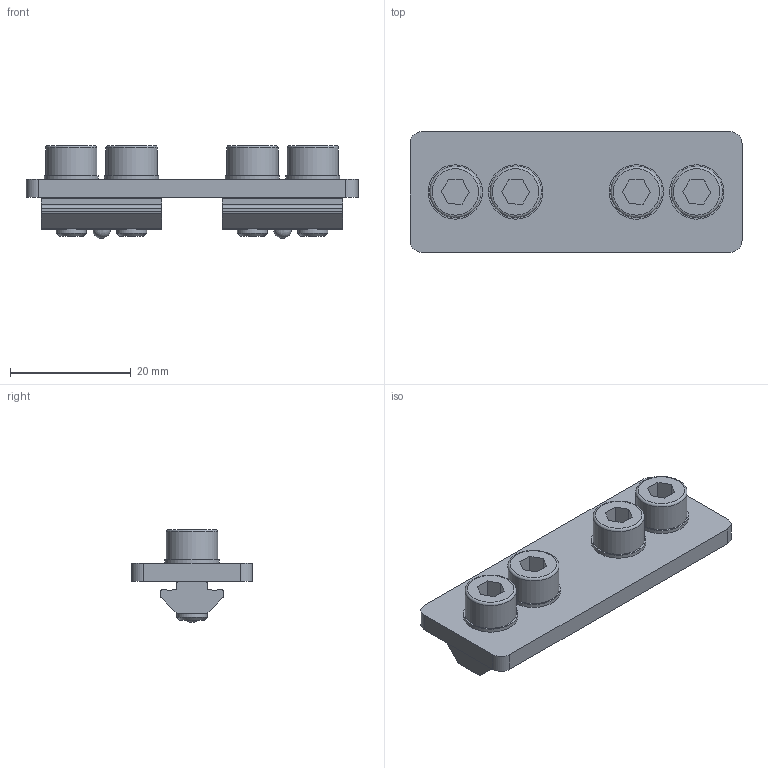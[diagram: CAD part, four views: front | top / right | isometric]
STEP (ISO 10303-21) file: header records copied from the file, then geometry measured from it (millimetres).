
FILE_DESCRIPTION(/* description */ (' Verbindungsblech S-Line 55mm'),/* implementation_level */ '2;1');
FILE_NAME(/* name */ 'J:\_TEMP - INPUT - Daten Austausch\CADs\stp Dateien für homepage\GR01.054.stp',/* time_stamp */ '2016-10-28T13:34:34+02:00',/* author */ ('DFloßmann'),/* organization */ (''),/* preprocessor_version */ 'ST-DEVELOPER v16.5',/* originating_system */ 'Autodesk Inventor 2017',/* authorisation */ '');
FILE_SCHEMA (('AUTOMOTIVE_DESIGN { 1 0 10303 214 3 1 1 }'));
Length unit declared in the file: millimetre
Products named in the file (5): GR01.054; GR01.054-1; GR01.091A; Schnorr S5; DIN912-M5x10
Assembly tree (11 placements, depth 2):
  GR01.054
    GR01.054-1
    GR01.091A  x2
    Schnorr S5  x4
    DIN912-M5x10  x4
Bounding box: 55 x 20 x 15.39 mm (x, y, z)
Volume: 6187.6 mm3; surface area: 6297.3 mm2
Topology: 11 solids, 11 shells, 152 faces, 370 edges, 246 vertices
Faces by surface type: plane 82, cylinder 60, cone 4, torus 4, sphere 2
Full cylindrical faces by diameter (mm): 4.134 x4, 5 x4, 5.3 x4, 5.5 x4, 8.5 x4, 9 x4
Entity records: 2132 total; most frequent: DIRECTION 374, CARTESIAN_POINT 337, ORIENTED_EDGE 298, EDGE_CURVE 149, AXIS2_PLACEMENT_3D 144, VERTEX_POINT 107, EDGE_LOOP 94, LINE 86
